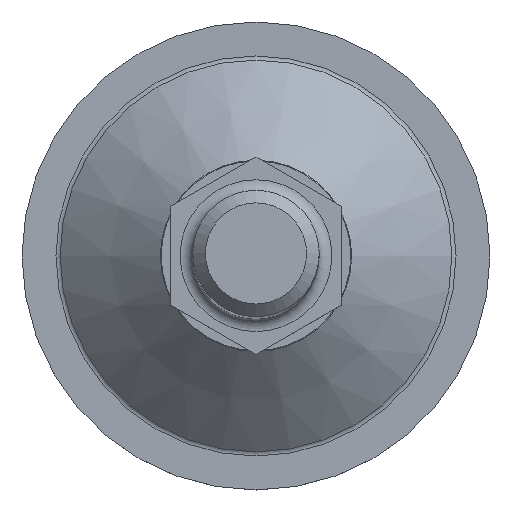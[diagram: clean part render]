
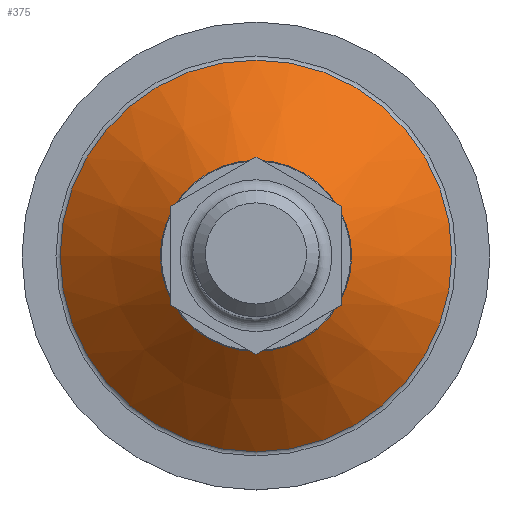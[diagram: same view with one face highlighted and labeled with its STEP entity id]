
A CAD part, top view. The second image highlights one B-rep face of the part: STEP entity #375.
In plain terms, the highlighted conical face has half-angle 49.002 degrees and reference radius 23.047 mm.
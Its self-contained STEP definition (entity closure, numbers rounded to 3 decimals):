
#72=CONICAL_SURFACE('',#420,23.047,49.002);
#81=FACE_BOUND('',#142,.T.);
#104=FACE_OUTER_BOUND('',#141,.T.);
#141=EDGE_LOOP('',(#294));
#142=EDGE_LOOP('',(#295));
#184=CIRCLE('',#406,15.124);
#192=CIRCLE('',#419,30.97);
#207=VERTEX_POINT('',#584);
#215=VERTEX_POINT('',#605);
#242=EDGE_CURVE('',#207,#207,#184,.T.);
#250=EDGE_CURVE('',#215,#215,#192,.T.);
#294=ORIENTED_EDGE('',*,*,#242,.T.);
#295=ORIENTED_EDGE('',*,*,#250,.F.);
#375=ADVANCED_FACE('',(#104,#81),#72,.T.);
#406=AXIS2_PLACEMENT_3D('',#585,#464,#465);
#419=AXIS2_PLACEMENT_3D('',#606,#490,#491);
#420=AXIS2_PLACEMENT_3D('',#607,#492,#493);
#464=DIRECTION('center_axis',(0.,0.,-1.));
#465=DIRECTION('ref_axis',(1.,0.,0.));
#490=DIRECTION('center_axis',(0.,0.,-1.));
#491=DIRECTION('ref_axis',(1.,0.,0.));
#492=DIRECTION('center_axis',(0.,0.,-1.));
#493=DIRECTION('ref_axis',(1.,0.,0.));
#584=CARTESIAN_POINT('',(91.933,169.802,-444.11));
#585=CARTESIAN_POINT('Origin',(107.057,169.802,-444.11));
#605=CARTESIAN_POINT('',(76.087,169.802,-457.884));
#606=CARTESIAN_POINT('Origin',(107.057,169.802,-457.884));
#607=CARTESIAN_POINT('Origin',(107.057,169.802,-450.997));
